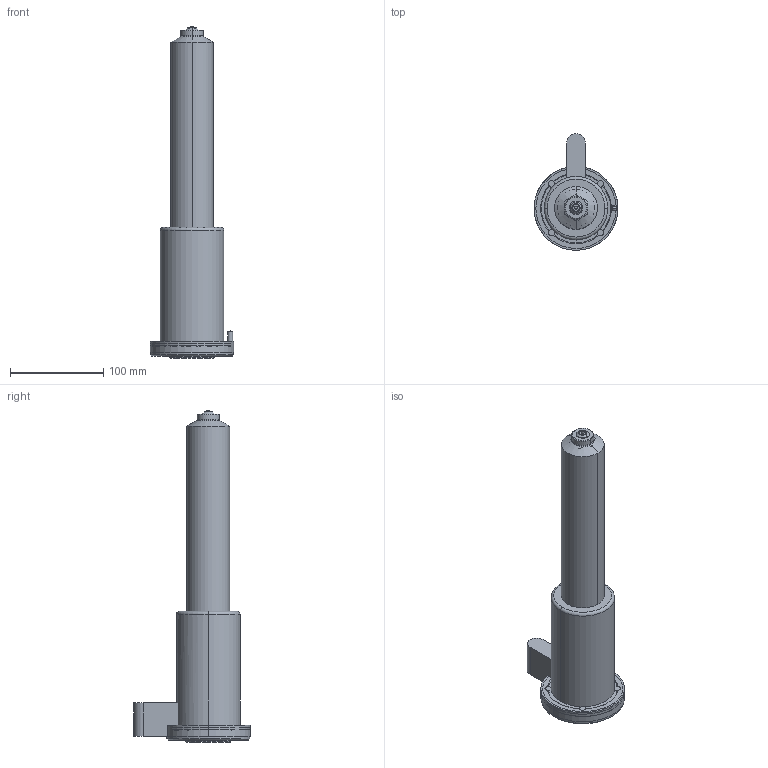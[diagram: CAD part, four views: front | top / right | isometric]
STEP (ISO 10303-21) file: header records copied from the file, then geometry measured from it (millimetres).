
FILE_DESCRIPTION (( 'STEP AP214' ), '1' );
FILE_NAME ('SR16_OPEN_350_BAND.STEP', '2009-05-07T15:41:32', ( 'Synventive Molding Solutions' ), ( 'Synventive Molding Solutions' ), 'SwSTEP 2.0', 'SolidWorks 2008', '' );
FILE_SCHEMA (( 'AUTOMOTIVE_DESIGN' ));
Length unit declared in the file: millimetre
Products named in the file (1): SR16_OPEN_350_BAND
Bounding box: 90 x 125 x 356 mm (x, y, z)
Volume: 1454076.8 mm3; surface area: 151508.3 mm2
Topology: 4 solids, 5 shells, 494 faces, 1272 edges, 799 vertices
Faces by surface type: cylinder 205, plane 160, torus 71, cone 50, sphere 4, bspline 4
Entity records: 22444 total; most frequent: CARTESIAN_POINT 4775, DIRECTION 2648, ORIENTED_EDGE 2532, EDGE_CURVE 1266, AXIS2_PLACEMENT_3D 1051, VERTEX_POINT 799, CIRCLE 560, LINE 546
